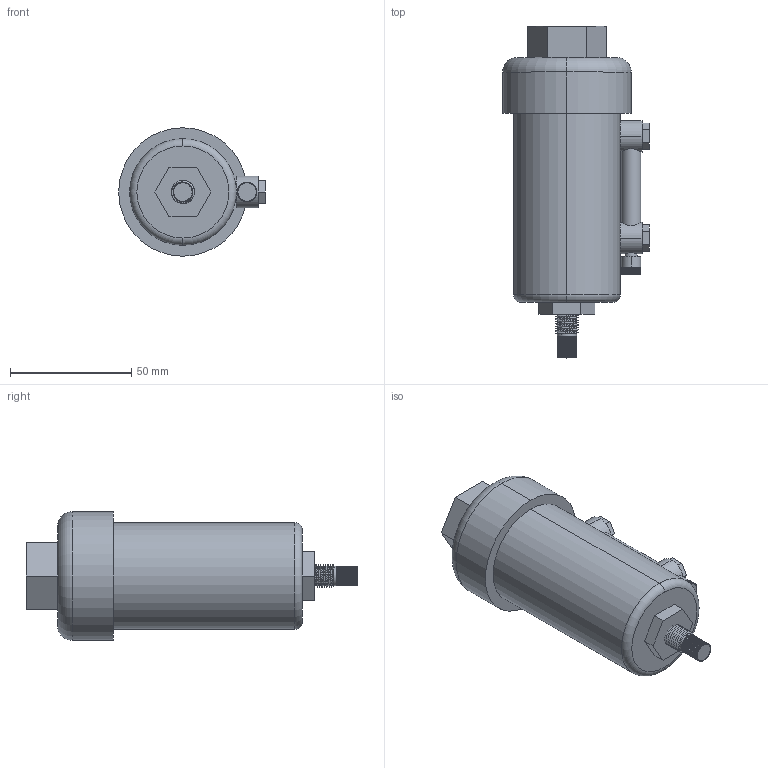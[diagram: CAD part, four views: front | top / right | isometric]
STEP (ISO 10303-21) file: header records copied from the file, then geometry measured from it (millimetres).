
FILE_DESCRIPTION (( 'STEP AP203' ), '1' );
FILE_NAME ('D011W-04.STEP', '2016-01-14T18:31:08', ( '' ), ( '' ), 'SwSTEP 2.0', 'SolidWorks 2014', '' );
FILE_SCHEMA (( 'CONFIG_CONTROL_DESIGN' ));
Length unit declared in the file: millimetre
Products named in the file (7): F504-3; D011W-6; D011W-2; D011W-4; D011W-1; D011W-5; D011W-04
Assembly tree (7 placements, depth 2):
  D011W-04
    D011W-1
    F504-3
    D011W-2
    D011W-5  x2
    D011W-4
    D011W-6
Bounding box: 60.5 x 137 x 53 mm (x, y, z)
Volume: 177473 mm3; surface area: 28434.7 mm2
Topology: 7 solids, 7 shells, 424 faces, 1200 edges, 797 vertices
Faces by surface type: plane 371, cylinder 43, torus 4, cone 4, bspline 2
Entity records: 15604 total; most frequent: CARTESIAN_POINT 3980, ORIENTED_EDGE 2348, DIRECTION 2225, EDGE_CURVE 1174, VECTOR 855, LINE 855, VERTEX_POINT 781, AXIS2_PLACEMENT_3D 685
